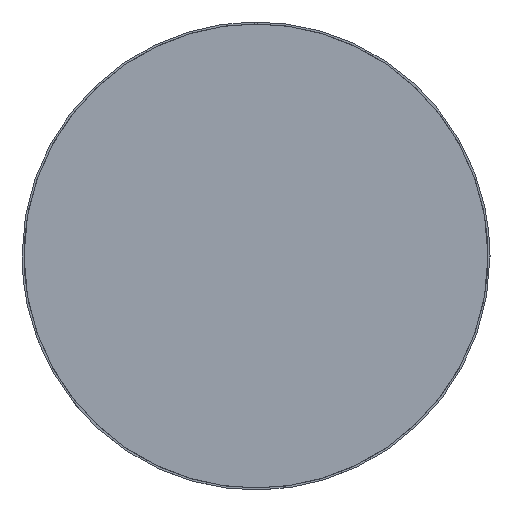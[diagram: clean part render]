
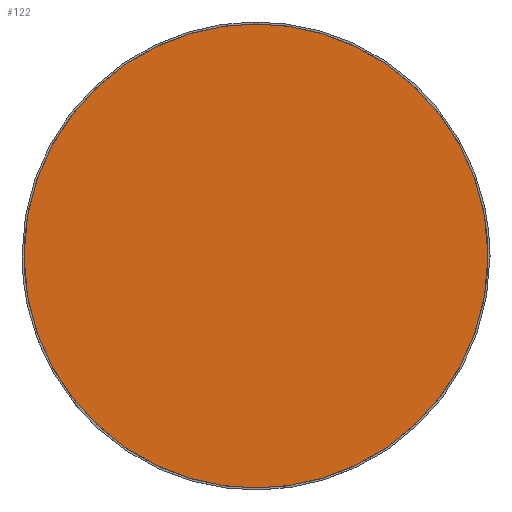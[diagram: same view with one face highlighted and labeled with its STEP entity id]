
A CAD part, top view. The second image highlights one B-rep face of the part: STEP entity #122.
In plain terms, the highlighted planar face has unit normal (0, 0, 1).
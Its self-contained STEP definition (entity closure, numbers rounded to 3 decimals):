
#122=ADVANCED_FACE('',(#196),#979,.T.);
#196=FACE_OUTER_BOUND('',#270,.T.);
#270=EDGE_LOOP('',(#349,#350));
#349=ORIENTED_EDGE('',*,*,#657,.F.);
#350=ORIENTED_EDGE('',*,*,#653,.F.);
#653=EDGE_CURVE('',#881,#883,#807,.T.);
#657=EDGE_CURVE('',#883,#881,#811,.T.);
#807=(
BOUNDED_CURVE()
B_SPLINE_CURVE(2,(#1155,#1156,#1157,#1158,#1159),.UNSPECIFIED.,.F.,.F.)
B_SPLINE_CURVE_WITH_KNOTS((3,2,3),(-2167.699,-1625.774,
-1083.849),.UNSPECIFIED.)
CURVE()
GEOMETRIC_REPRESENTATION_ITEM()
RATIONAL_B_SPLINE_CURVE((1.,0.707,1.,0.707,1.))
REPRESENTATION_ITEM('')
);
#811=(
BOUNDED_CURVE()
B_SPLINE_CURVE(2,(#1169,#1170,#1171,#1172,#1173),.UNSPECIFIED.,.F.,.F.)
B_SPLINE_CURVE_WITH_KNOTS((3,2,3),(-1083.849,-541.925,
0.),.UNSPECIFIED.)
CURVE()
GEOMETRIC_REPRESENTATION_ITEM()
RATIONAL_B_SPLINE_CURVE((1.,0.707,1.,0.707,1.))
REPRESENTATION_ITEM('')
);
#881=VERTEX_POINT('',#1151);
#883=VERTEX_POINT('',#1153);
#979=PLANE('',#1071);
#1071=AXIS2_PLACEMENT_3D('',#1139,#1100,$);
#1100=DIRECTION('',(0.,0.,1.));
#1139=CARTESIAN_POINT('',(433.75,-433.75,420.));
#1151=CARTESIAN_POINT('',(347.,0.,420.));
#1153=CARTESIAN_POINT('',(-347.,0.,420.));
#1155=CARTESIAN_POINT('',(347.,0.,420.));
#1156=CARTESIAN_POINT('',(347.,-347.,420.));
#1157=CARTESIAN_POINT('',(0.,-347.,420.));
#1158=CARTESIAN_POINT('',(-347.,-347.,420.));
#1159=CARTESIAN_POINT('',(-347.,0.,420.));
#1169=CARTESIAN_POINT('',(-347.,0.,420.));
#1170=CARTESIAN_POINT('',(-347.,347.,420.));
#1171=CARTESIAN_POINT('',(0.,347.,420.));
#1172=CARTESIAN_POINT('',(347.,347.,420.));
#1173=CARTESIAN_POINT('',(347.,0.,420.));
